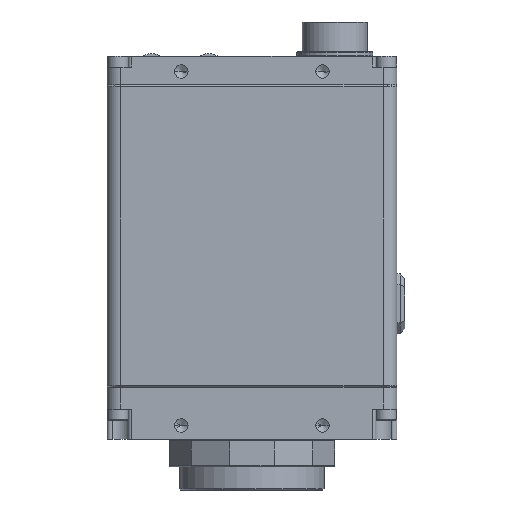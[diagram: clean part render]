
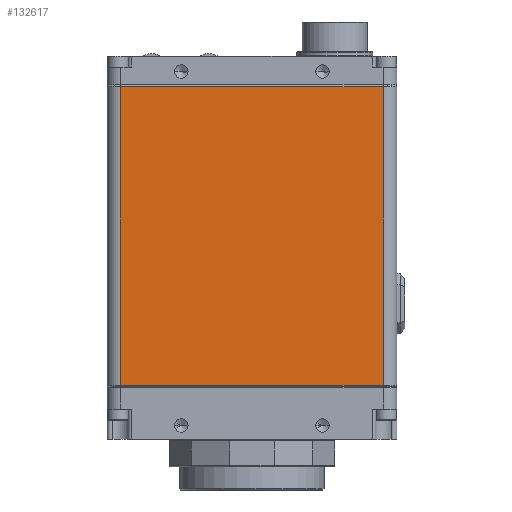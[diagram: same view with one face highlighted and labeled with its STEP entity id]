
A CAD part, front view. The second image highlights one B-rep face of the part: STEP entity #132617.
In plain terms, the highlighted planar face has unit normal (0, -1, 0) as drawn and (0, 1, 0) by its records, which use the part's own axes.
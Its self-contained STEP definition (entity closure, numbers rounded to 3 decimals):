
#590 = VERTEX_POINT ( 'NONE', #59686 ) ;
#828 = VECTOR ( 'NONE', #108507, 1000. ) ;
#9384 = VERTEX_POINT ( 'NONE', #67062 ) ;
#10729 = LINE ( 'NONE', #109158, #828 ) ;
#26137 = VECTOR ( 'NONE', #61598, 1000. ) ;
#30264 = EDGE_CURVE ( 'NONE', #590, #33322, #67744, .T. ) ;
#33322 = VERTEX_POINT ( 'NONE', #127692 ) ;
#36498 = VECTOR ( 'NONE', #41680, 1000. ) ;
#41426 = LINE ( 'NONE', #43184, #36498 ) ;
#41680 = DIRECTION ( 'NONE',  ( -1., 0., 0. ) ) ;
#43184 = CARTESIAN_POINT ( 'NONE',  ( -26.67, 16.51, 60.96 ) ) ;
#59686 = CARTESIAN_POINT ( 'NONE',  ( 24.13, 16.51, 5.944 ) ) ;
#61598 = DIRECTION ( 'NONE',  ( 0., 0., 1. ) ) ;
#64867 = CARTESIAN_POINT ( 'NONE',  ( 24.13, 16.51, 61.214 ) ) ;
#67062 = CARTESIAN_POINT ( 'NONE',  ( -24.13, 16.51, 60.96 ) ) ;
#67744 = LINE ( 'NONE', #64867, #26137 ) ;
#68945 = AXIS2_PLACEMENT_3D ( 'NONE', #193208, #193012, #192966 ) ;
#72294 = LINE ( 'NONE', #131717, #188688 ) ;
#75648 = ORIENTED_EDGE ( 'NONE', *, *, #30264, .F. ) ;
#79448 = EDGE_CURVE ( 'NONE', #33322, #9384, #41426, .T. ) ;
#96589 = ORIENTED_EDGE ( 'NONE', *, *, #159290, .F. ) ;
#108507 = DIRECTION ( 'NONE',  ( 0., 0., -1. ) ) ;
#109158 = CARTESIAN_POINT ( 'NONE',  ( -24.13, 16.51, 61.214 ) ) ;
#109783 = FACE_OUTER_BOUND ( 'NONE', #158571, .T. ) ;
#116451 = VERTEX_POINT ( 'NONE', #135673 ) ;
#122123 = EDGE_CURVE ( 'NONE', #9384, #116451, #10729, .T. ) ;
#122394 = ORIENTED_EDGE ( 'NONE', *, *, #79448, .F. ) ;
#127692 = CARTESIAN_POINT ( 'NONE',  ( 24.13, 16.51, 60.96 ) ) ;
#128424 = DIRECTION ( 'NONE',  ( 1., 0., 0. ) ) ;
#131717 = CARTESIAN_POINT ( 'NONE',  ( -26.67, 16.51, 5.944 ) ) ;
#132617 = ADVANCED_FACE ( 'NONE', ( #109783 ), #196732, .F. ) ;
#135673 = CARTESIAN_POINT ( 'NONE',  ( -24.13, 16.51, 5.944 ) ) ;
#158571 = EDGE_LOOP ( 'NONE', ( #96589, #173227, #122394, #75648 ) ) ;
#159290 = EDGE_CURVE ( 'NONE', #116451, #590, #72294, .T. ) ;
#173227 = ORIENTED_EDGE ( 'NONE', *, *, #122123, .F. ) ;
#188688 = VECTOR ( 'NONE', #128424, 1000. ) ;
#192966 = DIRECTION ( 'NONE',  ( 1., 0., 0. ) ) ;
#193012 = DIRECTION ( 'NONE',  ( 0., -1., 0. ) ) ;
#193208 = CARTESIAN_POINT ( 'NONE',  ( -26.67, 16.51, 61.214 ) ) ;
#196732 = PLANE ( 'NONE',  #68945 ) ;
